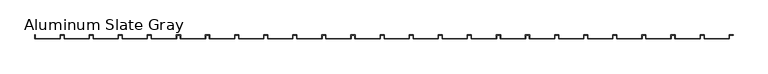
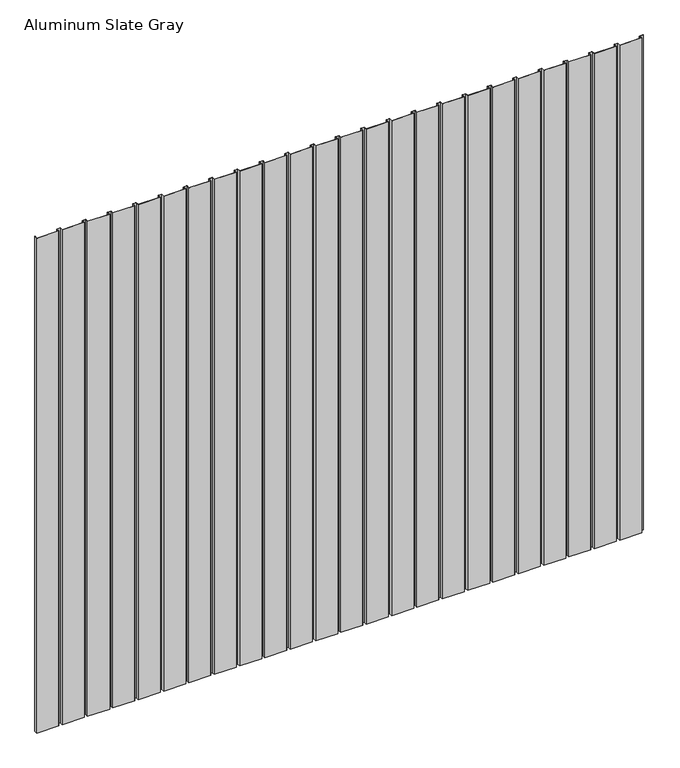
"""IFC4 building model written with IfcOpenShell, lengths in millimetres: proxy geometry, TitanTek VariPanel PLANK 1326 : Aluminum Slate Gray."""

import ifcopenshell
import ifcopenshell.guid

model = None  # the IFC model being written
_history = None  # IfcOwnerHistory: only IFC2X3 demands one
_inside = {}  # id of a spatial element -> (the spatial element, [elements in it])
_under = {}  # id of a project, library or spatial element -> (it, [spatial elements below it])
_declared = {}  # id of a project -> (the project, [libraries it declares])
_typed = {}  # id of a type object -> (the type object, [elements of that type])
_made_of = {}  # id of a material, layer set ... -> (it, [elements and type objects made of it])


def new_model(schema):
    """Start an empty IFC model of exactly this schema.

    Asked for "IFC4X3", IfcOpenShell would pick the latest addendum, in which some entities
    have other attributes; the version numbers below select the first issue.
    IFC2X3 requires an IfcOwnerHistory on every rooted entity: one is made here for all.
    """
    global model, _history
    if schema == "IFC4X3":
        model = ifcopenshell.file(schema_version=(4, 3, 0, 0))
    else:
        model = ifcopenshell.file(schema=schema)
    _inside.clear()
    _under.clear()
    _declared.clear()
    _typed.clear()
    _made_of.clear()
    _history = None
    if model.schema == "IFC2X3":
        org = make("IfcOrganization", Name="unknown")
        user = make(
            "IfcPersonAndOrganization",
            ThePerson=make("IfcPerson", FamilyName="unknown"),
            TheOrganization=org,
        )
        app = make(
            "IfcApplication",
            ApplicationDeveloper=org,
            Version="unknown",
            ApplicationFullName="unknown",
            ApplicationIdentifier="unknown",
        )
        _history = make(
            "IfcOwnerHistory",
            OwningUser=user,
            OwningApplication=app,
            ChangeAction="ADDED",
            CreationDate=0,
        )
    return model


def make(cls, **values):
    """One entity of the class cls with the attributes given. An attribute that is None is left unset."""
    return model.create_entity(
        cls, **{name: value for name, value in values.items() if value is not None}
    )


def rooted(cls, **values):
    """An entity with a GlobalId (a new one), such as an element, a storey or a relation."""
    return make(cls, GlobalId=ifcopenshell.guid.new(), OwnerHistory=_history, **values)


def si_unit(unit_type, name, prefix=None):
    """IfcSIUnit, for example si_unit("LENGTHUNIT", "METRE", prefix="MILLI")."""
    return make("IfcSIUnit", UnitType=unit_type, Prefix=prefix, Name=name)


def assignment(units):
    """IfcUnitAssignment: the units of a project."""
    return None if units is None else make("IfcUnitAssignment", Units=units)


def point(xyz):
    """IfcCartesianPoint."""
    return None if xyz is None else make("IfcCartesianPoint", Coordinates=xyz)


def direction(xyz):
    """IfcDirection."""
    return None if xyz is None else make("IfcDirection", DirectionRatios=xyz)


def frame(location, z_axis=None, x_axis=None):
    """IfcAxis2Placement3D, a coordinate frame: its origin and axes. An axis left out is left unset."""
    return make(
        "IfcAxis2Placement3D",
        Location=point(location),
        Axis=direction(z_axis),
        RefDirection=direction(x_axis),
    )


def origin():
    """The frame at (0, 0, 0) with its axes left unset."""
    return frame((0.0, 0.0, 0.0))


def origin_with_axes():
    """The frame at (0, 0, 0) with the z axis (0, 0, 1) and the x axis (1, 0, 0) written out."""
    return frame((0.0, 0.0, 0.0), z_axis=(0.0, 0.0, 1.0), x_axis=(1.0, 0.0, 0.0))


def place(relative_to, where):
    """IfcLocalPlacement: puts the frame where relative to a parent placement (None: the world)."""
    return make(
        "IfcLocalPlacement", PlacementRelTo=relative_to, RelativePlacement=where
    )


def context(
    kind, dimensions, precision=None, world=None, true_north=None, identifier=None
):
    """IfcGeometricRepresentationContext, for example the 3D "Model" context."""
    return make(
        "IfcGeometricRepresentationContext",
        ContextIdentifier=identifier,
        ContextType=kind,
        CoordinateSpaceDimension=dimensions,
        Precision=precision,
        WorldCoordinateSystem=world,
        TrueNorth=true_north,
    )


def project(units=None, contexts=None):
    """IfcProject with its units and contexts."""
    return rooted(
        "IfcProject",
        Name="project",
        RepresentationContexts=contexts,
        UnitsInContext=assignment(units),
    )


def spatial(cls, under=None, at=None, **own):
    """A site, building, storey or space (cls), placed at a placement, below another one or the project."""
    s = rooted(cls, ObjectPlacement=at, **own)
    if under is not None:
        _under.setdefault(under.id(), (under, []))[1].append(s)
    return s


def polyline(points):
    """IfcPolyline through the points."""
    return make("IfcPolyline", Points=[point(p) for p in points])


def outline(outer, holes=None, kind="AREA"):
    """IfcArbitraryClosedProfileDef: a profile drawn as a closed curve; with holes, ...WithVoids."""
    if holes is None:
        return make("IfcArbitraryClosedProfileDef", ProfileType=kind, OuterCurve=outer)
    return make(
        "IfcArbitraryProfileDefWithVoids",
        ProfileType=kind,
        OuterCurve=outer,
        InnerCurves=holes,
    )


def extrude(swept, where, along, depth):
    """IfcExtrudedAreaSolid: the profile swept, set in the frame where, extruded along a direction by depth."""
    return make(
        "IfcExtrudedAreaSolid",
        SweptArea=swept,
        Position=where,
        ExtrudedDirection=direction(along),
        Depth=depth,
    )


def shape(context_of_items, identifier, shape_type, items):
    """IfcShapeRepresentation: the items that make up one representation, for example the "Body"."""
    return make(
        "IfcShapeRepresentation",
        ContextOfItems=context_of_items,
        RepresentationIdentifier=identifier,
        RepresentationType=shape_type,
        Items=items,
    )


def source(mapping_origin, context_of_items, identifier, shape_type, items):
    """IfcRepresentationMap: a shape defined once, which mapped items show again and again."""
    return make(
        "IfcRepresentationMap",
        MappingOrigin=mapping_origin,
        MappedRepresentation=shape(context_of_items, identifier, shape_type, items),
    )


def transform(
    local_origin,
    x_axis=None,
    y_axis=None,
    z_axis=None,
    scale=None,
    scale2=None,
    scale3=None,
    uniform=True,
):
    """IfcCartesianTransformationOperator3D, or its non-uniform kind. x_axis, y_axis, z_axis: its Axis1, 2, 3."""
    if uniform:
        return make(
            "IfcCartesianTransformationOperator3D",
            Axis1=direction(x_axis),
            Axis2=direction(y_axis),
            LocalOrigin=point(local_origin),
            Scale=scale,
            Axis3=direction(z_axis),
        )
    return make(
        "IfcCartesianTransformationOperator3DnonUniform",
        Axis1=direction(x_axis),
        Axis2=direction(y_axis),
        LocalOrigin=point(local_origin),
        Scale=scale,
        Axis3=direction(z_axis),
        Scale2=scale2,
        Scale3=scale3,
    )


def mapped(mapping_source, mapping_target):
    """IfcMappedItem: shows the shape of a source again, moved by a transform."""
    return make(
        "IfcMappedItem", MappingSource=mapping_source, MappingTarget=mapping_target
    )


def made_of(thing, what):
    """Note that an element or type object is made of a material, layer set ...; save() writes the relation."""
    if what is not None:
        _made_of.setdefault(what.id(), (what, []))[1].append(thing)
    return thing


def element(
    cls,
    number,
    at=None,
    inside=None,
    cuts=None,
    type_object=None,
    material=None,
    context=None,
    identifier="Body",
    shape_type=None,
    held_by="IfcProductDefinitionShape",
    body=None,
    shapes=None,
    **own,
):
    """One element of the class cls, such as IfcWall. Its Tag is "e" and its number.

    at: its placement. inside: the storey or other place that contains it. cuts: it is an
    opening in that element (IfcRelVoidsElement). A single representation is given by context,
    identifier, shape_type and body (its items); several are given by shapes. held_by: the class
    of the entity that holds the representations. save() writes the other relations.
    """
    e = rooted(cls, Tag="e%d" % number, ObjectPlacement=at, **own)
    if body is not None:
        shapes = [shape(context, identifier, shape_type, body)]
    if shapes is not None:
        e.Representation = make(held_by, Representations=shapes)
    if inside is not None:
        _inside.setdefault(inside.id(), (inside, []))[1].append(e)
    if cuts is not None:
        rooted(
            "IfcRelVoidsElement", RelatingBuildingElement=cuts, RelatedOpeningElement=e
        )
    if type_object is not None:
        _typed.setdefault(type_object.id(), (type_object, []))[1].append(e)
    return made_of(e, material)


def aggregate(whole, parts):
    """IfcRelAggregates: a whole, such as a stair, and the parts it consists of."""
    return rooted("IfcRelAggregates", RelatingObject=whole, RelatedObjects=parts)


def save(model, path):
    """Write the relations noted so far, then the file.

    IfcRelAggregates (storeys below a building ...), IfcRelContainedInSpatialStructure (elements
    in a storey), IfcRelDefinesByType, IfcRelAssociatesMaterial and IfcRelDeclares: one each for
    every whole, place, type object, material and project.
    """
    for whole, parts in _under.values():
        aggregate(whole, parts)
    for where, things in _inside.values():
        rooted(
            "IfcRelContainedInSpatialStructure",
            RelatedElements=things,
            RelatingStructure=where,
        )
    for kind, things in _typed.values():
        rooted("IfcRelDefinesByType", RelatedObjects=things, RelatingType=kind)
    for what, things in _made_of.values():
        rooted("IfcRelAssociatesMaterial", RelatedObjects=things, RelatingMaterial=what)
    for by, libraries in _declared.values():
        rooted("IfcRelDeclares", RelatingContext=by, RelatedDefinitions=libraries)
    model.write(path)


def aluminum_slate_gray_b45d79fe(model_context):
    return source(origin(), model_context, "Body", "SweptSolid", [
        extrude(outline(polyline([(4622.8, -0.9921875), (4622.8, -25.4), (4454.525, -25.4), (4454.525, -0.9921875), (4429.125, -0.9921875), (4429.125, -25.4), (4260.85, -25.4), (4260.85, 0.0), (4261.8421875, 0.0), (4261.8421875, -24.4078125), (4428.1328125, -24.4078125), (4428.1328125, 0.0), (4455.5171875, 0.0), (4455.5171875, -24.4078125), (4621.8078125, -24.4078125), (4621.8078125, 0.0), (4648.2, 0.0), (4648.2, -0.9921875), (4622.8, -0.9921875)])), origin_with_axes(), (0.0, 0.0, 1.0), 4000.0),
        extrude(outline(polyline([(4235.45, -0.9921875), (4235.45, -25.4), (4067.175, -25.4), (4067.175, -0.9921875), (4041.775, -0.9921875), (4041.775, -25.4), (3873.5, -25.4), (3873.5, 0.0), (3874.4921875, 0.0), (3874.4921875, -24.4078125), (4040.7828125, -24.4078125), (4040.7828125, 0.0), (4068.1671875, 0.0), (4068.1671875, -24.4078125), (4234.4578125, -24.4078125), (4234.4578125, 0.0), (4260.85, 0.0), (4260.85, -0.9921875), (4235.45, -0.9921875)])), origin_with_axes(), (0.0, 0.0, 1.0), 4000.0),
        extrude(outline(polyline([(3848.1, -0.9921875), (3848.1, -25.4), (3679.825, -25.4), (3679.825, -0.9921875), (3654.425, -0.9921875), (3654.425, -25.4), (3486.15, -25.4), (3486.15, 0.0), (3487.1421875, 0.0), (3487.1421875, -24.4078125), (3653.4328125, -24.4078125), (3653.4328125, 0.0), (3680.8171875, 0.0), (3680.8171875, -24.4078125), (3847.1078125, -24.4078125), (3847.1078125, 0.0), (3873.5, 0.0), (3873.5, -0.9921875), (3848.1, -0.9921875)])), origin_with_axes(), (0.0, 0.0, 1.0), 4000.0),
        extrude(outline(polyline([(3460.75, -0.9921875), (3460.75, -25.4), (3292.475, -25.4), (3292.475, -0.9921875), (3267.075, -0.9921875), (3267.075, -25.4), (3098.8, -25.4), (3098.8, 0.0), (3099.7921875, 0.0), (3099.7921875, -24.4078125), (3266.0828125, -24.4078125), (3266.0828125, 0.0), (3293.4671875, 0.0), (3293.4671875, -24.4078125), (3459.7578125, -24.4078125), (3459.7578125, 0.0), (3486.15, 0.0), (3486.15, -0.9921875), (3460.75, -0.9921875)])), origin_with_axes(), (0.0, 0.0, 1.0), 4000.0),
        extrude(outline(polyline([(3073.4, -0.9921875), (3073.4, -25.4), (2905.125, -25.4), (2905.125, -0.9921875), (2879.725, -0.9921875), (2879.725, -25.4), (2711.45, -25.4), (2711.45, 0.0), (2712.4421875, 0.0), (2712.4421875, -24.4078125), (2878.7328125, -24.4078125), (2878.7328125, 0.0), (2906.1171875, 0.0), (2906.1171875, -24.4078125), (3072.4078125, -24.4078125), (3072.4078125, 0.0), (3098.8, 0.0), (3098.8, -0.9921875), (3073.4, -0.9921875)])), origin_with_axes(), (0.0, 0.0, 1.0), 4000.0),
        extrude(outline(polyline([(2686.05, -0.9921875), (2686.05, -25.4), (2517.775, -25.4), (2517.775, -0.9921875), (2492.375, -0.9921875), (2492.375, -25.4), (2324.1, -25.4), (2324.1, 0.0), (2325.0921875, 0.0), (2325.0921875, -24.4078125), (2491.3828125, -24.4078125), (2491.3828125, 0.0), (2518.7671875, 0.0), (2518.7671875, -24.4078125), (2685.0578125, -24.4078125), (2685.0578125, 0.0), (2711.45, 0.0), (2711.45, -0.9921875), (2686.05, -0.9921875)])), origin_with_axes(), (0.0, 0.0, 1.0), 4000.0),
        extrude(outline(polyline([(2298.7, -0.9921875), (2298.7, -25.4), (2130.425, -25.4), (2130.425, -0.9921875), (2105.025, -0.9921875), (2105.025, -25.4), (1936.75, -25.4), (1936.75, 0.0), (1937.7421875, 0.0), (1937.7421875, -24.4078125), (2104.0328125, -24.4078125), (2104.0328125, 0.0), (2131.4171875, 0.0), (2131.4171875, -24.4078125), (2297.7078125, -24.4078125), (2297.7078125, 0.0), (2324.1, 0.0), (2324.1, -0.9921875), (2298.7, -0.9921875)])), origin_with_axes(), (0.0, 0.0, 1.0), 4000.0),
        extrude(outline(polyline([(1911.35, -0.9921875), (1911.35, -25.4), (1743.075, -25.4), (1743.075, -0.9921875), (1717.675, -0.9921875), (1717.675, -25.4), (1549.4, -25.4), (1549.4, 0.0), (1550.3921875, 0.0), (1550.3921875, -24.4078125), (1716.6828125, -24.4078125), (1716.6828125, 0.0), (1744.0671875, 0.0), (1744.0671875, -24.4078125), (1910.3578125, -24.4078125), (1910.3578125, 0.0), (1936.75, 0.0), (1936.75, -0.9921875), (1911.35, -0.9921875)])), origin_with_axes(), (0.0, 0.0, 1.0), 4000.0),
        extrude(outline(polyline([(1524.0, -0.9921875), (1524.0, -25.4), (1355.725, -25.4), (1355.725, -0.9921875), (1330.325, -0.9921875), (1330.325, -25.4), (1162.05, -25.4), (1162.05, 0.0), (1163.0421875, 0.0), (1163.0421875, -24.4078125), (1329.3328125, -24.4078125), (1329.3328125, 0.0), (1356.7171875, 0.0), (1356.7171875, -24.4078125), (1523.0078125, -24.4078125), (1523.0078125, 0.0), (1549.4, 0.0), (1549.4, -0.9921875), (1524.0, -0.9921875)])), origin_with_axes(), (0.0, 0.0, 1.0), 4000.0),
        extrude(outline(polyline([(1136.65, -0.9921875), (1136.65, -25.4), (968.375, -25.4), (968.375, -0.9921875), (942.975, -0.9921875), (942.975, -25.4), (774.7, -25.4), (774.7, 0.0), (775.6921875, 0.0), (775.6921875, -24.4078125), (941.9828125, -24.4078125), (941.9828125, 0.0), (969.3671875, 0.0), (969.3671875, -24.4078125), (1135.6578125, -24.4078125), (1135.6578125, 0.0), (1162.05, 0.0), (1162.05, -0.9921875), (1136.65, -0.9921875)])), origin_with_axes(), (0.0, 0.0, 1.0), 4000.0),
        extrude(outline(polyline([(749.3, -0.9921875), (749.3, -25.4), (581.025, -25.4), (581.025, -0.9921875), (555.625, -0.9921875), (555.625, -25.4), (387.35, -25.4), (387.35, 0.0), (388.3421875, 0.0), (388.3421875, -24.4078125), (554.6328125, -24.4078125), (554.6328125, 0.0), (582.0171875, 0.0), (582.0171875, -24.4078125), (748.3078125, -24.4078125), (748.3078125, 0.0), (774.7, 0.0), (774.7, -0.9921875), (749.3, -0.9921875)])), origin_with_axes(), (0.0, 0.0, 1.0), 4000.0),
        extrude(outline(polyline([(361.95, -0.9921875), (361.95, -25.4), (193.675, -25.4), (193.675, -0.9921875), (168.275, -0.9921875), (168.275, -25.4), (0.0, -25.4), (0.0, 0.0), (0.9921875, 0.0), (0.9921875, -24.4078125), (167.2828125, -24.4078125), (167.2828125, 0.0), (194.6671875, 0.0), (194.6671875, -24.4078125), (360.9578125, -24.4078125), (360.9578125, 0.0), (387.35, 0.0), (387.35, -0.9921875), (361.95, -0.9921875)])), origin_with_axes(), (0.0, 0.0, 1.0), 4000.0),
    ])


if __name__ == "__main__":
    model = new_model("IFC4")
    model_context = context("Model", 3, world=origin())
    ifc_project = project(units=[si_unit("LENGTHUNIT", "METRE", prefix="MILLI")], contexts=[model_context])
    site = spatial("IfcSite", under=ifc_project)
    building = spatial("IfcBuilding", under=site)
    placement = place(None, origin())
    aluminum_slate_gray_shape = aluminum_slate_gray_b45d79fe(model_context)
    element("IfcBuildingElementProxy", 1, Name="TitanTek VariPanel PLANK 1326 : Aluminum Slate Gray", ObjectType="TitanTek VariPanel PLANK 1326 : Aluminum Slate Gray", at=placement, inside=building, context=model_context, shape_type="MappedRepresentation", body=[
        mapped(aluminum_slate_gray_shape, transform((0.0, 0.0, 0.0), x_axis=(1.0, 0.0, 0.0), y_axis=(0.0, 1.0, 0.0), z_axis=(0.0, 0.0, 1.0))),
    ])
    save(model, "model.ifc")
